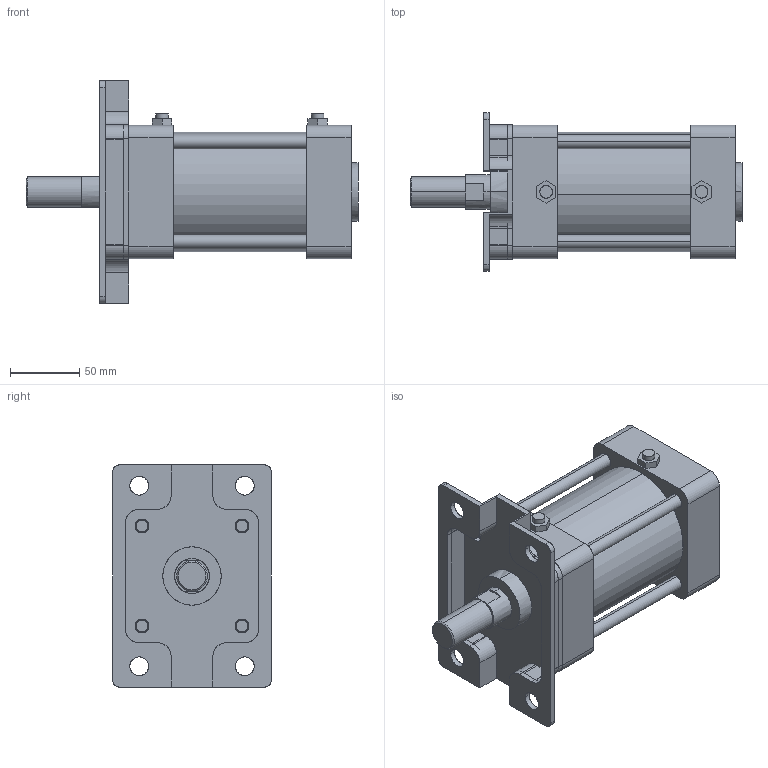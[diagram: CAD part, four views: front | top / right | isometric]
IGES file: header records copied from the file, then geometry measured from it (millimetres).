
Start section: SolidWorks IGES file using analytic representation for surfaces
Global section: file name: C:\Users\Toshiba\Desktop\KG2-80-50-A.IGS; native system: SolidWorks 2014; preprocessor: SolidWorks 2014; author: Toshiba; date: 160401.161830; units: millimetre
Bounding box: 239 x 114 x 160 mm (x, y, z)
Surface area: 220837.5 mm2 (no closed solid volume)
Topology: 0 solids, 0 shells, 377 faces, 6038 edges, 6034 vertices
Faces by surface type: bspline 195, revolution 182
